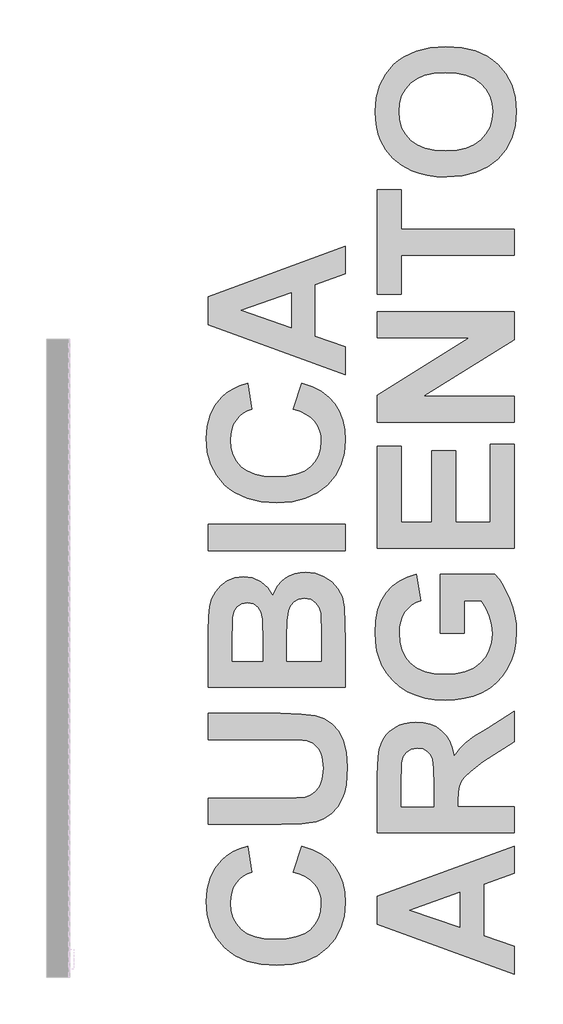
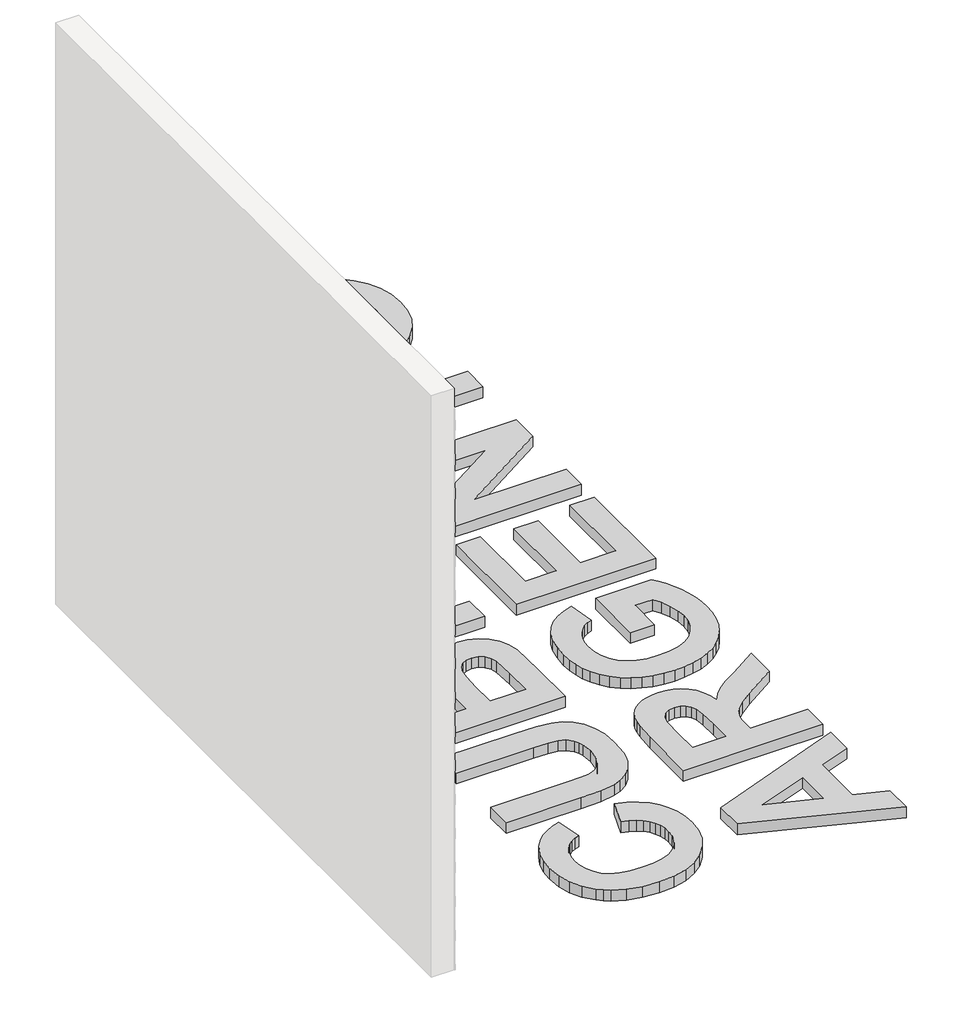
# One storey, part 21 of 121: 93 proxies.
"""IFC4 building model written with IfcOpenShell, lengths in millimetres."""

from ifc_helpers import new_model, si_unit, origin, origin_with_axes, place, context, project, spatial, polyline, outline, extrude, transform, mapped, element, save
from components import generic_models_b2b2c5c1, generic_models_9bf73f6f, generic_models_5d175859, generic_models_95f85f1d, generic_models_336a48c1, generic_models_3c04e8e5, generic_models_61989c10, generic_models_e1ce04d0, generic_models_7dea52c4

model = new_model("IFC4")

# Units and contexts
model_context = context("Model", 3, world=origin())
ifc_project = project(units=[si_unit("LENGTHUNIT", "METRE", prefix="MILLI")], contexts=[model_context])

# Site, building, storey
site = spatial("IfcSite", under=ifc_project)
building = spatial("IfcBuilding", under=site)
storey = spatial("IfcBuildingStorey", under=building, Name="PORTOBELLO - SHOWROOM", Elevation=0.0)

# Proxies
placement = place(None, origin())
generic_models_shape = generic_models_b2b2c5c1(model_context)
element("IfcBuildingElementProxy", 1, Name="PBSHOP - CUBICA ARGENTO 4,8X8,3 : CUBICA ARGENTO - POSIÇÃO 01", ObjectType="PBSHOP - CUBICA ARGENTO 4,8X8,3 : CUBICA ARGENTO - POSIÇÃO 01", at=placement, inside=storey, context=model_context, shape_type="MappedRepresentation", body=[
    mapped(generic_models_shape, transform((150369.5341846, -3950.7919848, 39.4221668), x_axis=(0.0, 1.0, 0.0), y_axis=(0.0, 0.0, 1.0), z_axis=(1.0, 0.0, 0.0))),
])
element("IfcBuildingElementProxy", 2, Name="PBSHOP - CUBICA ARGENTO 4,8X8,3 : CUBICA ARGENTO - POSIÇÃO 01", ObjectType="PBSHOP - CUBICA ARGENTO 4,8X8,3 : CUBICA ARGENTO - POSIÇÃO 01", at=placement, inside=storey, context=model_context, shape_type="MappedRepresentation", body=[
    mapped(generic_models_shape, transform((150369.5341846, -3859.9527156, 39.4221668), x_axis=(0.0, 1.0, 0.0), y_axis=(0.0, 0.0, 1.0), z_axis=(1.0, 0.0, 0.0))),
])
element("IfcBuildingElementProxy", 3, Name="PBSHOP - CUBICA ARGENTO 4,8X8,3 : CUBICA ARGENTO - POSIÇÃO 01", ObjectType="PBSHOP - CUBICA ARGENTO 4,8X8,3 : CUBICA ARGENTO - POSIÇÃO 01", at=placement, inside=storey, context=model_context, shape_type="MappedRepresentation", body=[
    mapped(generic_models_shape, transform((150369.5341846, -3769.1134464, 39.4221668), x_axis=(0.0, 1.0, 0.0), y_axis=(0.0, 0.0, 1.0), z_axis=(1.0, 0.0, 0.0))),
])
element("IfcBuildingElementProxy", 4, Name="PBSHOP - CUBICA ARGENTO 4,8X8,3 : CUBICA ARGENTO - POSIÇÃO 01", ObjectType="PBSHOP - CUBICA ARGENTO 4,8X8,3 : CUBICA ARGENTO - POSIÇÃO 01", at=placement, inside=storey, context=model_context, shape_type="MappedRepresentation", body=[
    mapped(generic_models_shape, transform((150369.5341846, -3678.2741771, 39.4221668), x_axis=(0.0, 1.0, 0.0), y_axis=(0.0, 0.0, 1.0), z_axis=(1.0, 0.0, 0.0))),
])
element("IfcBuildingElementProxy", 5, Name="PBSHOP - CUBICA ARGENTO 4,8X8,3 : CUBICA ARGENTO - POSIÇÃO 01", ObjectType="PBSHOP - CUBICA ARGENTO 4,8X8,3 : CUBICA ARGENTO - POSIÇÃO 01", at=placement, inside=storey, context=model_context, shape_type="MappedRepresentation", body=[
    mapped(generic_models_shape, transform((150369.5341846, -3996.2116195, 118.3568052), x_axis=(0.0, 1.0, 0.0), y_axis=(0.0, 0.0, 1.0), z_axis=(1.0, 0.0, 0.0))),
])
element("IfcBuildingElementProxy", 6, Name="PBSHOP - CUBICA ARGENTO 4,8X8,3 : CUBICA ARGENTO - POSIÇÃO 01", ObjectType="PBSHOP - CUBICA ARGENTO 4,8X8,3 : CUBICA ARGENTO - POSIÇÃO 01", at=placement, inside=storey, context=model_context, shape_type="MappedRepresentation", body=[
    mapped(generic_models_shape, transform((150369.5341846, -3905.3723502, 118.3568052), x_axis=(0.0, 1.0, 0.0), y_axis=(0.0, 0.0, 1.0), z_axis=(1.0, 0.0, 0.0))),
])
element("IfcBuildingElementProxy", 7, Name="PBSHOP - CUBICA ARGENTO 4,8X8,3 : CUBICA ARGENTO - POSIÇÃO 01", ObjectType="PBSHOP - CUBICA ARGENTO 4,8X8,3 : CUBICA ARGENTO - POSIÇÃO 01", at=placement, inside=storey, context=model_context, shape_type="MappedRepresentation", body=[
    mapped(generic_models_shape, transform((150369.5341846, -3814.533081, 118.3568052), x_axis=(0.0, 1.0, 0.0), y_axis=(0.0, 0.0, 1.0), z_axis=(1.0, 0.0, 0.0))),
])
element("IfcBuildingElementProxy", 8, Name="PBSHOP - CUBICA ARGENTO 4,8X8,3 : CUBICA ARGENTO - POSIÇÃO 01", ObjectType="PBSHOP - CUBICA ARGENTO 4,8X8,3 : CUBICA ARGENTO - POSIÇÃO 01", at=placement, inside=storey, context=model_context, shape_type="MappedRepresentation", body=[
    mapped(generic_models_shape, transform((150369.5341846, -3723.6938117, 118.3568052), x_axis=(0.0, 1.0, 0.0), y_axis=(0.0, 0.0, 1.0), z_axis=(1.0, 0.0, 0.0))),
])
element("IfcBuildingElementProxy", 9, Name="PBSHOP - CUBICA ARGENTO 4,8X8,3 : CUBICA ARGENTO - POSIÇÃO 01", ObjectType="PBSHOP - CUBICA ARGENTO 4,8X8,3 : CUBICA ARGENTO - POSIÇÃO 01", at=placement, inside=storey, context=model_context, shape_type="MappedRepresentation", body=[
    mapped(generic_models_shape, transform((150369.5341846, -3632.8545425, 118.3568052), x_axis=(0.0, 1.0, 0.0), y_axis=(0.0, 0.0, 1.0), z_axis=(1.0, 0.0, 0.0))),
])
element("IfcBuildingElementProxy", 10, Name="PBSHOP - CUBICA ARGENTO 4,8X8,3 : CUBICA ARGENTO - POSIÇÃO 01", ObjectType="PBSHOP - CUBICA ARGENTO 4,8X8,3 : CUBICA ARGENTO - POSIÇÃO 01", at=placement, inside=storey, context=model_context, shape_type="MappedRepresentation", body=[
    mapped(generic_models_shape, transform((150369.5341846, -3950.7919848, 197.2914436), x_axis=(0.0, 1.0, 0.0), y_axis=(0.0, 0.0, 1.0), z_axis=(1.0, 0.0, 0.0))),
])
element("IfcBuildingElementProxy", 11, Name="PBSHOP - CUBICA ARGENTO 4,8X8,3 : CUBICA ARGENTO - POSIÇÃO 01", ObjectType="PBSHOP - CUBICA ARGENTO 4,8X8,3 : CUBICA ARGENTO - POSIÇÃO 01", at=placement, inside=storey, context=model_context, shape_type="MappedRepresentation", body=[
    mapped(generic_models_shape, transform((150369.5341846, -3859.9527156, 197.2914436), x_axis=(0.0, 1.0, 0.0), y_axis=(0.0, 0.0, 1.0), z_axis=(1.0, 0.0, 0.0))),
])
element("IfcBuildingElementProxy", 12, Name="PBSHOP - CUBICA ARGENTO 4,8X8,3 : CUBICA ARGENTO - POSIÇÃO 01", ObjectType="PBSHOP - CUBICA ARGENTO 4,8X8,3 : CUBICA ARGENTO - POSIÇÃO 01", at=placement, inside=storey, context=model_context, shape_type="MappedRepresentation", body=[
    mapped(generic_models_shape, transform((150369.5341846, -3769.1134464, 197.2914436), x_axis=(0.0, 1.0, 0.0), y_axis=(0.0, 0.0, 1.0), z_axis=(1.0, 0.0, 0.0))),
])
element("IfcBuildingElementProxy", 13, Name="PBSHOP - CUBICA ARGENTO 4,8X8,3 : CUBICA ARGENTO - POSIÇÃO 01", ObjectType="PBSHOP - CUBICA ARGENTO 4,8X8,3 : CUBICA ARGENTO - POSIÇÃO 01", at=placement, inside=storey, context=model_context, shape_type="MappedRepresentation", body=[
    mapped(generic_models_shape, transform((150369.5341846, -3678.2741771, 197.2914436), x_axis=(0.0, 1.0, 0.0), y_axis=(0.0, 0.0, 1.0), z_axis=(1.0, 0.0, 0.0))),
])
element("IfcBuildingElementProxy", 14, Name="PBSHOP - CUBICA ARGENTO 4,8X8,3 : CUBICA ARGENTO - POSIÇÃO 01", ObjectType="PBSHOP - CUBICA ARGENTO 4,8X8,3 : CUBICA ARGENTO - POSIÇÃO 01", at=placement, inside=storey, context=model_context, shape_type="MappedRepresentation", body=[
    mapped(generic_models_shape, transform((150369.5341846, -3996.2116195, 276.2260819), x_axis=(0.0, 1.0, 0.0), y_axis=(0.0, 0.0, 1.0), z_axis=(1.0, 0.0, 0.0))),
])
element("IfcBuildingElementProxy", 15, Name="PBSHOP - CUBICA ARGENTO 4,8X8,3 : CUBICA ARGENTO - POSIÇÃO 01", ObjectType="PBSHOP - CUBICA ARGENTO 4,8X8,3 : CUBICA ARGENTO - POSIÇÃO 01", at=placement, inside=storey, context=model_context, shape_type="MappedRepresentation", body=[
    mapped(generic_models_shape, transform((150369.5341846, -3905.3723502, 276.2260819), x_axis=(0.0, 1.0, 0.0), y_axis=(0.0, 0.0, 1.0), z_axis=(1.0, 0.0, 0.0))),
])
element("IfcBuildingElementProxy", 16, Name="PBSHOP - CUBICA ARGENTO 4,8X8,3 : CUBICA ARGENTO - POSIÇÃO 01", ObjectType="PBSHOP - CUBICA ARGENTO 4,8X8,3 : CUBICA ARGENTO - POSIÇÃO 01", at=placement, inside=storey, context=model_context, shape_type="MappedRepresentation", body=[
    mapped(generic_models_shape, transform((150369.5341846, -3814.533081, 276.2260819), x_axis=(0.0, 1.0, 0.0), y_axis=(0.0, 0.0, 1.0), z_axis=(1.0, 0.0, 0.0))),
])
element("IfcBuildingElementProxy", 17, Name="PBSHOP - CUBICA ARGENTO 4,8X8,3 : CUBICA ARGENTO - POSIÇÃO 01", ObjectType="PBSHOP - CUBICA ARGENTO 4,8X8,3 : CUBICA ARGENTO - POSIÇÃO 01", at=placement, inside=storey, context=model_context, shape_type="MappedRepresentation", body=[
    mapped(generic_models_shape, transform((150369.5341846, -3723.6938117, 276.2260819), x_axis=(0.0, 1.0, 0.0), y_axis=(0.0, 0.0, 1.0), z_axis=(1.0, 0.0, 0.0))),
])
element("IfcBuildingElementProxy", 18, Name="PBSHOP - CUBICA ARGENTO 4,8X8,3 : CUBICA ARGENTO - POSIÇÃO 01", ObjectType="PBSHOP - CUBICA ARGENTO 4,8X8,3 : CUBICA ARGENTO - POSIÇÃO 01", at=placement, inside=storey, context=model_context, shape_type="MappedRepresentation", body=[
    mapped(generic_models_shape, transform((150369.5341846, -3632.8545425, 276.2260819), x_axis=(0.0, 1.0, 0.0), y_axis=(0.0, 0.0, 1.0), z_axis=(1.0, 0.0, 0.0))),
])
element("IfcBuildingElementProxy", 19, Name="PBSHOP - CUBICA ARGENTO 4,8X8,3 : CUBICA ARGENTO - POSIÇÃO 01", ObjectType="PBSHOP - CUBICA ARGENTO 4,8X8,3 : CUBICA ARGENTO - POSIÇÃO 01", at=placement, inside=storey, context=model_context, shape_type="MappedRepresentation", body=[
    mapped(generic_models_shape, transform((150369.5341846, -3950.7919848, 355.1607203), x_axis=(0.0, 1.0, 0.0), y_axis=(0.0, 0.0, 1.0), z_axis=(1.0, 0.0, 0.0))),
])
element("IfcBuildingElementProxy", 20, Name="PBSHOP - CUBICA ARGENTO 4,8X8,3 : CUBICA ARGENTO - POSIÇÃO 01", ObjectType="PBSHOP - CUBICA ARGENTO 4,8X8,3 : CUBICA ARGENTO - POSIÇÃO 01", at=placement, inside=storey, context=model_context, shape_type="MappedRepresentation", body=[
    mapped(generic_models_shape, transform((150369.5341846, -3859.9527156, 355.1607203), x_axis=(0.0, 1.0, 0.0), y_axis=(0.0, 0.0, 1.0), z_axis=(1.0, 0.0, 0.0))),
])
element("IfcBuildingElementProxy", 21, Name="PBSHOP - CUBICA ARGENTO 4,8X8,3 : CUBICA ARGENTO - POSIÇÃO 01", ObjectType="PBSHOP - CUBICA ARGENTO 4,8X8,3 : CUBICA ARGENTO - POSIÇÃO 01", at=placement, inside=storey, context=model_context, shape_type="MappedRepresentation", body=[
    mapped(generic_models_shape, transform((150369.5341846, -3769.1134464, 355.1607203), x_axis=(0.0, 1.0, 0.0), y_axis=(0.0, 0.0, 1.0), z_axis=(1.0, 0.0, 0.0))),
])
element("IfcBuildingElementProxy", 22, Name="PBSHOP - CUBICA ARGENTO 4,8X8,3 : CUBICA ARGENTO - POSIÇÃO 01", ObjectType="PBSHOP - CUBICA ARGENTO 4,8X8,3 : CUBICA ARGENTO - POSIÇÃO 01", at=placement, inside=storey, context=model_context, shape_type="MappedRepresentation", body=[
    mapped(generic_models_shape, transform((150369.5341846, -3678.2741771, 355.1607203), x_axis=(0.0, 1.0, 0.0), y_axis=(0.0, 0.0, 1.0), z_axis=(1.0, 0.0, 0.0))),
])
element("IfcBuildingElementProxy", 23, Name="PBSHOP - CUBICA ARGENTO 4,8X8,3 : CUBICA ARGENTO - POSIÇÃO 01", ObjectType="PBSHOP - CUBICA ARGENTO 4,8X8,3 : CUBICA ARGENTO - POSIÇÃO 01", at=placement, inside=storey, context=model_context, shape_type="MappedRepresentation", body=[
    mapped(generic_models_shape, transform((150369.5341846, -3996.2116195, 434.0953587), x_axis=(0.0, 1.0, 0.0), y_axis=(0.0, 0.0, 1.0), z_axis=(1.0, 0.0, 0.0))),
])
element("IfcBuildingElementProxy", 24, Name="PBSHOP - CUBICA ARGENTO 4,8X8,3 : CUBICA ARGENTO - POSIÇÃO 01", ObjectType="PBSHOP - CUBICA ARGENTO 4,8X8,3 : CUBICA ARGENTO - POSIÇÃO 01", at=placement, inside=storey, context=model_context, shape_type="MappedRepresentation", body=[
    mapped(generic_models_shape, transform((150369.5341846, -3905.3723502, 434.0953587), x_axis=(0.0, 1.0, 0.0), y_axis=(0.0, 0.0, 1.0), z_axis=(1.0, 0.0, 0.0))),
])
element("IfcBuildingElementProxy", 25, Name="PBSHOP - CUBICA ARGENTO 4,8X8,3 : CUBICA ARGENTO - POSIÇÃO 01", ObjectType="PBSHOP - CUBICA ARGENTO 4,8X8,3 : CUBICA ARGENTO - POSIÇÃO 01", at=placement, inside=storey, context=model_context, shape_type="MappedRepresentation", body=[
    mapped(generic_models_shape, transform((150369.5341846, -3814.533081, 434.0953587), x_axis=(0.0, 1.0, 0.0), y_axis=(0.0, 0.0, 1.0), z_axis=(1.0, 0.0, 0.0))),
])
element("IfcBuildingElementProxy", 26, Name="PBSHOP - CUBICA ARGENTO 4,8X8,3 : CUBICA ARGENTO - POSIÇÃO 01", ObjectType="PBSHOP - CUBICA ARGENTO 4,8X8,3 : CUBICA ARGENTO - POSIÇÃO 01", at=placement, inside=storey, context=model_context, shape_type="MappedRepresentation", body=[
    mapped(generic_models_shape, transform((150369.5341846, -3723.6938117, 434.0953587), x_axis=(0.0, 1.0, 0.0), y_axis=(0.0, 0.0, 1.0), z_axis=(1.0, 0.0, 0.0))),
])
element("IfcBuildingElementProxy", 27, Name="PBSHOP - CUBICA ARGENTO 4,8X8,3 : CUBICA ARGENTO - POSIÇÃO 01", ObjectType="PBSHOP - CUBICA ARGENTO 4,8X8,3 : CUBICA ARGENTO - POSIÇÃO 01", at=placement, inside=storey, context=model_context, shape_type="MappedRepresentation", body=[
    mapped(generic_models_shape, transform((150369.5341846, -3632.8545425, 434.0953587), x_axis=(0.0, 1.0, 0.0), y_axis=(0.0, 0.0, 1.0), z_axis=(1.0, 0.0, 0.0))),
])
element("IfcBuildingElementProxy", 28, Name="PBSHOP - CUBICA ARGENTO 4,8X8,3 : CUBICA ARGENTO - POSIÇÃO 01", ObjectType="PBSHOP - CUBICA ARGENTO 4,8X8,3 : CUBICA ARGENTO - POSIÇÃO 01", at=placement, inside=storey, context=model_context, shape_type="MappedRepresentation", body=[
    mapped(generic_models_shape, transform((150369.5341846, -3950.7919848, 513.0299971), x_axis=(0.0, 1.0, 0.0), y_axis=(0.0, 0.0, 1.0), z_axis=(1.0, 0.0, 0.0))),
])
generic_models_2_shape = generic_models_9bf73f6f(model_context)
element("IfcBuildingElementProxy", 29, Name="PBSHOP - CUBICA ARGENTO 4,8X8,3 : CUBICA ARGENTO - POSIÇÃO 03", ObjectType="PBSHOP - CUBICA ARGENTO 4,8X8,3 : CUBICA ARGENTO - POSIÇÃO 03", at=placement, inside=storey, context=model_context, shape_type="MappedRepresentation", body=[
    mapped(generic_models_2_shape, transform((150369.5341846, -3928.0800084, 78.8482756), x_axis=(0.0, 1.0, 0.0), y_axis=(0.0, 0.0, 1.0), z_axis=(1.0, 0.0, 0.0))),
])
element("IfcBuildingElementProxy", 30, Name="PBSHOP - CUBICA ARGENTO 4,8X8,3 : CUBICA ARGENTO - POSIÇÃO 03", ObjectType="PBSHOP - CUBICA ARGENTO 4,8X8,3 : CUBICA ARGENTO - POSIÇÃO 03", at=placement, inside=storey, context=model_context, shape_type="MappedRepresentation", body=[
    mapped(generic_models_2_shape, transform((150369.5341846, -3837.2407391, 78.8482756), x_axis=(0.0, 1.0, 0.0), y_axis=(0.0, 0.0, 1.0), z_axis=(1.0, 0.0, 0.0))),
])
element("IfcBuildingElementProxy", 31, Name="PBSHOP - CUBICA ARGENTO 4,8X8,3 : CUBICA ARGENTO - POSIÇÃO 03", ObjectType="PBSHOP - CUBICA ARGENTO 4,8X8,3 : CUBICA ARGENTO - POSIÇÃO 03", at=placement, inside=storey, context=model_context, shape_type="MappedRepresentation", body=[
    mapped(generic_models_2_shape, transform((150369.5341846, -3746.4014699, 78.8482756), x_axis=(0.0, 1.0, 0.0), y_axis=(0.0, 0.0, 1.0), z_axis=(1.0, 0.0, 0.0))),
])
element("IfcBuildingElementProxy", 32, Name="PBSHOP - CUBICA ARGENTO 4,8X8,3 : CUBICA ARGENTO - POSIÇÃO 03", ObjectType="PBSHOP - CUBICA ARGENTO 4,8X8,3 : CUBICA ARGENTO - POSIÇÃO 03", at=placement, inside=storey, context=model_context, shape_type="MappedRepresentation", body=[
    mapped(generic_models_2_shape, transform((150369.5341846, -3655.5622006, 78.8482756), x_axis=(0.0, 1.0, 0.0), y_axis=(0.0, 0.0, 1.0), z_axis=(1.0, 0.0, 0.0))),
])
element("IfcBuildingElementProxy", 33, Name="PBSHOP - CUBICA ARGENTO 4,8X8,3 : CUBICA ARGENTO - POSIÇÃO 03", ObjectType="PBSHOP - CUBICA ARGENTO 4,8X8,3 : CUBICA ARGENTO - POSIÇÃO 03", at=placement, inside=storey, context=model_context, shape_type="MappedRepresentation", body=[
    mapped(generic_models_2_shape, transform((150369.5341846, -3973.499643, 157.7829139), x_axis=(0.0, 1.0, 0.0), y_axis=(0.0, 0.0, 1.0), z_axis=(1.0, 0.0, 0.0))),
])
element("IfcBuildingElementProxy", 34, Name="PBSHOP - CUBICA ARGENTO 4,8X8,3 : CUBICA ARGENTO - POSIÇÃO 03", ObjectType="PBSHOP - CUBICA ARGENTO 4,8X8,3 : CUBICA ARGENTO - POSIÇÃO 03", at=placement, inside=storey, context=model_context, shape_type="MappedRepresentation", body=[
    mapped(generic_models_2_shape, transform((150369.5341846, -3882.6603737, 157.7829139), x_axis=(0.0, 1.0, 0.0), y_axis=(0.0, 0.0, 1.0), z_axis=(1.0, 0.0, 0.0))),
])
element("IfcBuildingElementProxy", 35, Name="PBSHOP - CUBICA ARGENTO 4,8X8,3 : CUBICA ARGENTO - POSIÇÃO 03", ObjectType="PBSHOP - CUBICA ARGENTO 4,8X8,3 : CUBICA ARGENTO - POSIÇÃO 03", at=placement, inside=storey, context=model_context, shape_type="MappedRepresentation", body=[
    mapped(generic_models_2_shape, transform((150369.5341846, -3791.8211045, 157.7829139), x_axis=(0.0, 1.0, 0.0), y_axis=(0.0, 0.0, 1.0), z_axis=(1.0, 0.0, 0.0))),
])
element("IfcBuildingElementProxy", 36, Name="PBSHOP - CUBICA ARGENTO 4,8X8,3 : CUBICA ARGENTO - POSIÇÃO 03", ObjectType="PBSHOP - CUBICA ARGENTO 4,8X8,3 : CUBICA ARGENTO - POSIÇÃO 03", at=placement, inside=storey, context=model_context, shape_type="MappedRepresentation", body=[
    mapped(generic_models_2_shape, transform((150369.5341846, -3700.9818353, 157.7829139), x_axis=(0.0, 1.0, 0.0), y_axis=(0.0, 0.0, 1.0), z_axis=(1.0, 0.0, 0.0))),
])
element("IfcBuildingElementProxy", 37, Name="PBSHOP - CUBICA ARGENTO 4,8X8,3 : CUBICA ARGENTO - POSIÇÃO 03", ObjectType="PBSHOP - CUBICA ARGENTO 4,8X8,3 : CUBICA ARGENTO - POSIÇÃO 03", at=placement, inside=storey, context=model_context, shape_type="MappedRepresentation", body=[
    mapped(generic_models_2_shape, transform((150369.5341846, -3928.0800084, 236.7175523), x_axis=(0.0, 1.0, 0.0), y_axis=(0.0, 0.0, 1.0), z_axis=(1.0, 0.0, 0.0))),
])
element("IfcBuildingElementProxy", 38, Name="PBSHOP - CUBICA ARGENTO 4,8X8,3 : CUBICA ARGENTO - POSIÇÃO 03", ObjectType="PBSHOP - CUBICA ARGENTO 4,8X8,3 : CUBICA ARGENTO - POSIÇÃO 03", at=placement, inside=storey, context=model_context, shape_type="MappedRepresentation", body=[
    mapped(generic_models_2_shape, transform((150369.5341846, -3837.2407391, 236.7175523), x_axis=(0.0, 1.0, 0.0), y_axis=(0.0, 0.0, 1.0), z_axis=(1.0, 0.0, 0.0))),
])
element("IfcBuildingElementProxy", 39, Name="PBSHOP - CUBICA ARGENTO 4,8X8,3 : CUBICA ARGENTO - POSIÇÃO 03", ObjectType="PBSHOP - CUBICA ARGENTO 4,8X8,3 : CUBICA ARGENTO - POSIÇÃO 03", at=placement, inside=storey, context=model_context, shape_type="MappedRepresentation", body=[
    mapped(generic_models_2_shape, transform((150369.5341846, -3746.4014699, 236.7175523), x_axis=(0.0, 1.0, 0.0), y_axis=(0.0, 0.0, 1.0), z_axis=(1.0, 0.0, 0.0))),
])
element("IfcBuildingElementProxy", 40, Name="PBSHOP - CUBICA ARGENTO 4,8X8,3 : CUBICA ARGENTO - POSIÇÃO 03", ObjectType="PBSHOP - CUBICA ARGENTO 4,8X8,3 : CUBICA ARGENTO - POSIÇÃO 03", at=placement, inside=storey, context=model_context, shape_type="MappedRepresentation", body=[
    mapped(generic_models_2_shape, transform((150369.5341846, -3655.5622006, 236.7175523), x_axis=(0.0, 1.0, 0.0), y_axis=(0.0, 0.0, 1.0), z_axis=(1.0, 0.0, 0.0))),
])
element("IfcBuildingElementProxy", 41, Name="PBSHOP - CUBICA ARGENTO 4,8X8,3 : CUBICA ARGENTO - POSIÇÃO 03", ObjectType="PBSHOP - CUBICA ARGENTO 4,8X8,3 : CUBICA ARGENTO - POSIÇÃO 03", at=placement, inside=storey, context=model_context, shape_type="MappedRepresentation", body=[
    mapped(generic_models_2_shape, transform((150369.5341846, -3973.499643, 315.6521907), x_axis=(0.0, 1.0, 0.0), y_axis=(0.0, 0.0, 1.0), z_axis=(1.0, 0.0, 0.0))),
])
element("IfcBuildingElementProxy", 42, Name="PBSHOP - CUBICA ARGENTO 4,8X8,3 : CUBICA ARGENTO - POSIÇÃO 03", ObjectType="PBSHOP - CUBICA ARGENTO 4,8X8,3 : CUBICA ARGENTO - POSIÇÃO 03", at=placement, inside=storey, context=model_context, shape_type="MappedRepresentation", body=[
    mapped(generic_models_2_shape, transform((150369.5341846, -3882.6603737, 315.6521907), x_axis=(0.0, 1.0, 0.0), y_axis=(0.0, 0.0, 1.0), z_axis=(1.0, 0.0, 0.0))),
])
element("IfcBuildingElementProxy", 43, Name="PBSHOP - CUBICA ARGENTO 4,8X8,3 : CUBICA ARGENTO - POSIÇÃO 03", ObjectType="PBSHOP - CUBICA ARGENTO 4,8X8,3 : CUBICA ARGENTO - POSIÇÃO 03", at=placement, inside=storey, context=model_context, shape_type="MappedRepresentation", body=[
    mapped(generic_models_2_shape, transform((150369.5341846, -3791.8211045, 315.6521907), x_axis=(0.0, 1.0, 0.0), y_axis=(0.0, 0.0, 1.0), z_axis=(1.0, 0.0, 0.0))),
])
element("IfcBuildingElementProxy", 44, Name="PBSHOP - CUBICA ARGENTO 4,8X8,3 : CUBICA ARGENTO - POSIÇÃO 03", ObjectType="PBSHOP - CUBICA ARGENTO 4,8X8,3 : CUBICA ARGENTO - POSIÇÃO 03", at=placement, inside=storey, context=model_context, shape_type="MappedRepresentation", body=[
    mapped(generic_models_2_shape, transform((150369.5341846, -3700.9818353, 315.6521907), x_axis=(0.0, 1.0, 0.0), y_axis=(0.0, 0.0, 1.0), z_axis=(1.0, 0.0, 0.0))),
])
element("IfcBuildingElementProxy", 45, Name="PBSHOP - CUBICA ARGENTO 4,8X8,3 : CUBICA ARGENTO - POSIÇÃO 03", ObjectType="PBSHOP - CUBICA ARGENTO 4,8X8,3 : CUBICA ARGENTO - POSIÇÃO 03", at=placement, inside=storey, context=model_context, shape_type="MappedRepresentation", body=[
    mapped(generic_models_2_shape, transform((150369.5341846, -3928.0800084, 394.5868291), x_axis=(0.0, 1.0, 0.0), y_axis=(0.0, 0.0, 1.0), z_axis=(1.0, 0.0, 0.0))),
])
element("IfcBuildingElementProxy", 46, Name="PBSHOP - CUBICA ARGENTO 4,8X8,3 : CUBICA ARGENTO - POSIÇÃO 03", ObjectType="PBSHOP - CUBICA ARGENTO 4,8X8,3 : CUBICA ARGENTO - POSIÇÃO 03", at=placement, inside=storey, context=model_context, shape_type="MappedRepresentation", body=[
    mapped(generic_models_2_shape, transform((150369.5341846, -3837.2407391, 394.5868291), x_axis=(0.0, 1.0, 0.0), y_axis=(0.0, 0.0, 1.0), z_axis=(1.0, 0.0, 0.0))),
])
element("IfcBuildingElementProxy", 47, Name="PBSHOP - CUBICA ARGENTO 4,8X8,3 : CUBICA ARGENTO - POSIÇÃO 03", ObjectType="PBSHOP - CUBICA ARGENTO 4,8X8,3 : CUBICA ARGENTO - POSIÇÃO 03", at=placement, inside=storey, context=model_context, shape_type="MappedRepresentation", body=[
    mapped(generic_models_2_shape, transform((150369.5341846, -3746.4014699, 394.5868291), x_axis=(0.0, 1.0, 0.0), y_axis=(0.0, 0.0, 1.0), z_axis=(1.0, 0.0, 0.0))),
])
element("IfcBuildingElementProxy", 48, Name="PBSHOP - CUBICA ARGENTO 4,8X8,3 : CUBICA ARGENTO - POSIÇÃO 03", ObjectType="PBSHOP - CUBICA ARGENTO 4,8X8,3 : CUBICA ARGENTO - POSIÇÃO 03", at=placement, inside=storey, context=model_context, shape_type="MappedRepresentation", body=[
    mapped(generic_models_2_shape, transform((150369.5341846, -3655.5622006, 394.5868291), x_axis=(0.0, 1.0, 0.0), y_axis=(0.0, 0.0, 1.0), z_axis=(1.0, 0.0, 0.0))),
])
generic_models_3_shape = generic_models_5d175859(model_context)
element("IfcBuildingElementProxy", 49, Name="PBSHOP - CUBICA ARGENTO 4,8X8,3 : CUBICA ARGENTO - POSIÇÃO 01", ObjectType="PBSHOP - CUBICA ARGENTO 4,8X8,3 : CUBICA ARGENTO - POSIÇÃO 01", at=placement, inside=storey, context=model_context, shape_type="MappedRepresentation", body=[
    mapped(generic_models_3_shape, transform((150369.5341846, -3996.2073011, 39.4221668), x_axis=(0.0, -1.0, 0.0), y_axis=(0.0, 0.0, -1.0), z_axis=(1.0, 0.0, 0.0))),
])
element("IfcBuildingElementProxy", 50, Name="PBSHOP - CUBICA ARGENTO 4,8X8,3 : CUBICA ARGENTO - POSIÇÃO 01", ObjectType="PBSHOP - CUBICA ARGENTO 4,8X8,3 : CUBICA ARGENTO - POSIÇÃO 01", at=placement, inside=storey, context=model_context, shape_type="MappedRepresentation", body=[
    mapped(generic_models_3_shape, transform((150369.5341846, -3905.3680319, 39.4221668), x_axis=(0.0, -1.0, 0.0), y_axis=(0.0, 0.0, -1.0), z_axis=(1.0, 0.0, 0.0))),
])
element("IfcBuildingElementProxy", 51, Name="PBSHOP - CUBICA ARGENTO 4,8X8,3 : CUBICA ARGENTO - POSIÇÃO 01", ObjectType="PBSHOP - CUBICA ARGENTO 4,8X8,3 : CUBICA ARGENTO - POSIÇÃO 01", at=placement, inside=storey, context=model_context, shape_type="MappedRepresentation", body=[
    mapped(generic_models_3_shape, transform((150369.5341846, -3814.5287626, 39.4221668), x_axis=(0.0, -1.0, 0.0), y_axis=(0.0, 0.0, -1.0), z_axis=(1.0, 0.0, 0.0))),
])
element("IfcBuildingElementProxy", 52, Name="PBSHOP - CUBICA ARGENTO 4,8X8,3 : CUBICA ARGENTO - POSIÇÃO 01", ObjectType="PBSHOP - CUBICA ARGENTO 4,8X8,3 : CUBICA ARGENTO - POSIÇÃO 01", at=placement, inside=storey, context=model_context, shape_type="MappedRepresentation", body=[
    mapped(generic_models_3_shape, transform((150369.5341846, -3723.6894934, 39.4221668), x_axis=(0.0, -1.0, 0.0), y_axis=(0.0, 0.0, -1.0), z_axis=(1.0, 0.0, 0.0))),
])
element("IfcBuildingElementProxy", 53, Name="PBSHOP - CUBICA ARGENTO 4,8X8,3 : CUBICA ARGENTO - POSIÇÃO 01", ObjectType="PBSHOP - CUBICA ARGENTO 4,8X8,3 : CUBICA ARGENTO - POSIÇÃO 01", at=placement, inside=storey, context=model_context, shape_type="MappedRepresentation", body=[
    mapped(generic_models_3_shape, transform((150369.5341846, -3632.8502242, 39.4221668), x_axis=(0.0, -1.0, 0.0), y_axis=(0.0, 0.0, -1.0), z_axis=(1.0, 0.0, 0.0))),
])
element("IfcBuildingElementProxy", 54, Name="PBSHOP - CUBICA ARGENTO 4,8X8,3 : CUBICA ARGENTO - POSIÇÃO 01", ObjectType="PBSHOP - CUBICA ARGENTO 4,8X8,3 : CUBICA ARGENTO - POSIÇÃO 01", at=placement, inside=storey, context=model_context, shape_type="MappedRepresentation", body=[
    mapped(generic_models_3_shape, transform((150369.5341846, -3950.7876665, 118.3568052), x_axis=(0.0, -1.0, 0.0), y_axis=(0.0, 0.0, -1.0), z_axis=(1.0, 0.0, 0.0))),
])
element("IfcBuildingElementProxy", 55, Name="PBSHOP - CUBICA ARGENTO 4,8X8,3 : CUBICA ARGENTO - POSIÇÃO 01", ObjectType="PBSHOP - CUBICA ARGENTO 4,8X8,3 : CUBICA ARGENTO - POSIÇÃO 01", at=placement, inside=storey, context=model_context, shape_type="MappedRepresentation", body=[
    mapped(generic_models_3_shape, transform((150369.5341846, -3859.9483973, 118.3568052), x_axis=(0.0, -1.0, 0.0), y_axis=(0.0, 0.0, -1.0), z_axis=(1.0, 0.0, 0.0))),
])
element("IfcBuildingElementProxy", 56, Name="PBSHOP - CUBICA ARGENTO 4,8X8,3 : CUBICA ARGENTO - POSIÇÃO 01", ObjectType="PBSHOP - CUBICA ARGENTO 4,8X8,3 : CUBICA ARGENTO - POSIÇÃO 01", at=placement, inside=storey, context=model_context, shape_type="MappedRepresentation", body=[
    mapped(generic_models_3_shape, transform((150369.5341846, -3769.109128, 118.3568052), x_axis=(0.0, -1.0, 0.0), y_axis=(0.0, 0.0, -1.0), z_axis=(1.0, 0.0, 0.0))),
])
element("IfcBuildingElementProxy", 57, Name="PBSHOP - CUBICA ARGENTO 4,8X8,3 : CUBICA ARGENTO - POSIÇÃO 01", ObjectType="PBSHOP - CUBICA ARGENTO 4,8X8,3 : CUBICA ARGENTO - POSIÇÃO 01", at=placement, inside=storey, context=model_context, shape_type="MappedRepresentation", body=[
    mapped(generic_models_3_shape, transform((150369.5341846, -3678.2698588, 118.3568052), x_axis=(0.0, -1.0, 0.0), y_axis=(0.0, 0.0, -1.0), z_axis=(1.0, 0.0, 0.0))),
])
element("IfcBuildingElementProxy", 58, Name="PBSHOP - CUBICA ARGENTO 4,8X8,3 : CUBICA ARGENTO - POSIÇÃO 01", ObjectType="PBSHOP - CUBICA ARGENTO 4,8X8,3 : CUBICA ARGENTO - POSIÇÃO 01", at=placement, inside=storey, context=model_context, shape_type="MappedRepresentation", body=[
    mapped(generic_models_3_shape, transform((150369.5341846, -3996.2073011, 197.2914436), x_axis=(0.0, -1.0, 0.0), y_axis=(0.0, 0.0, -1.0), z_axis=(1.0, 0.0, 0.0))),
])
element("IfcBuildingElementProxy", 59, Name="PBSHOP - CUBICA ARGENTO 4,8X8,3 : CUBICA ARGENTO - POSIÇÃO 01", ObjectType="PBSHOP - CUBICA ARGENTO 4,8X8,3 : CUBICA ARGENTO - POSIÇÃO 01", at=placement, inside=storey, context=model_context, shape_type="MappedRepresentation", body=[
    mapped(generic_models_3_shape, transform((150369.5341846, -3905.3680319, 197.2914436), x_axis=(0.0, -1.0, 0.0), y_axis=(0.0, 0.0, -1.0), z_axis=(1.0, 0.0, 0.0))),
])
element("IfcBuildingElementProxy", 60, Name="PBSHOP - CUBICA ARGENTO 4,8X8,3 : CUBICA ARGENTO - POSIÇÃO 01", ObjectType="PBSHOP - CUBICA ARGENTO 4,8X8,3 : CUBICA ARGENTO - POSIÇÃO 01", at=placement, inside=storey, context=model_context, shape_type="MappedRepresentation", body=[
    mapped(generic_models_3_shape, transform((150369.5341846, -3814.5287626, 197.2914436), x_axis=(0.0, -1.0, 0.0), y_axis=(0.0, 0.0, -1.0), z_axis=(1.0, 0.0, 0.0))),
])
element("IfcBuildingElementProxy", 61, Name="PBSHOP - CUBICA ARGENTO 4,8X8,3 : CUBICA ARGENTO - POSIÇÃO 01", ObjectType="PBSHOP - CUBICA ARGENTO 4,8X8,3 : CUBICA ARGENTO - POSIÇÃO 01", at=placement, inside=storey, context=model_context, shape_type="MappedRepresentation", body=[
    mapped(generic_models_3_shape, transform((150369.5341846, -3723.6894934, 197.2914436), x_axis=(0.0, -1.0, 0.0), y_axis=(0.0, 0.0, -1.0), z_axis=(1.0, 0.0, 0.0))),
])
element("IfcBuildingElementProxy", 62, Name="PBSHOP - CUBICA ARGENTO 4,8X8,3 : CUBICA ARGENTO - POSIÇÃO 01", ObjectType="PBSHOP - CUBICA ARGENTO 4,8X8,3 : CUBICA ARGENTO - POSIÇÃO 01", at=placement, inside=storey, context=model_context, shape_type="MappedRepresentation", body=[
    mapped(generic_models_3_shape, transform((150369.5341846, -3632.8502242, 197.2914436), x_axis=(0.0, -1.0, 0.0), y_axis=(0.0, 0.0, -1.0), z_axis=(1.0, 0.0, 0.0))),
])
element("IfcBuildingElementProxy", 63, Name="PBSHOP - CUBICA ARGENTO 4,8X8,3 : CUBICA ARGENTO - POSIÇÃO 01", ObjectType="PBSHOP - CUBICA ARGENTO 4,8X8,3 : CUBICA ARGENTO - POSIÇÃO 01", at=placement, inside=storey, context=model_context, shape_type="MappedRepresentation", body=[
    mapped(generic_models_3_shape, transform((150369.5341846, -3950.7876665, 276.2260819), x_axis=(0.0, -1.0, 0.0), y_axis=(0.0, 0.0, -1.0), z_axis=(1.0, 0.0, 0.0))),
])
element("IfcBuildingElementProxy", 64, Name="PBSHOP - CUBICA ARGENTO 4,8X8,3 : CUBICA ARGENTO - POSIÇÃO 01", ObjectType="PBSHOP - CUBICA ARGENTO 4,8X8,3 : CUBICA ARGENTO - POSIÇÃO 01", at=placement, inside=storey, context=model_context, shape_type="MappedRepresentation", body=[
    mapped(generic_models_3_shape, transform((150369.5341846, -3859.9483973, 276.2260819), x_axis=(0.0, -1.0, 0.0), y_axis=(0.0, 0.0, -1.0), z_axis=(1.0, 0.0, 0.0))),
])
element("IfcBuildingElementProxy", 65, Name="PBSHOP - CUBICA ARGENTO 4,8X8,3 : CUBICA ARGENTO - POSIÇÃO 01", ObjectType="PBSHOP - CUBICA ARGENTO 4,8X8,3 : CUBICA ARGENTO - POSIÇÃO 01", at=placement, inside=storey, context=model_context, shape_type="MappedRepresentation", body=[
    mapped(generic_models_3_shape, transform((150369.5341846, -3769.109128, 276.2260819), x_axis=(0.0, -1.0, 0.0), y_axis=(0.0, 0.0, -1.0), z_axis=(1.0, 0.0, 0.0))),
])
element("IfcBuildingElementProxy", 66, Name="PBSHOP - CUBICA ARGENTO 4,8X8,3 : CUBICA ARGENTO - POSIÇÃO 01", ObjectType="PBSHOP - CUBICA ARGENTO 4,8X8,3 : CUBICA ARGENTO - POSIÇÃO 01", at=placement, inside=storey, context=model_context, shape_type="MappedRepresentation", body=[
    mapped(generic_models_3_shape, transform((150369.5341846, -3678.2698588, 276.2260819), x_axis=(0.0, -1.0, 0.0), y_axis=(0.0, 0.0, -1.0), z_axis=(1.0, 0.0, 0.0))),
])
element("IfcBuildingElementProxy", 67, Name="PBSHOP - CUBICA ARGENTO 4,8X8,3 : CUBICA ARGENTO - POSIÇÃO 01", ObjectType="PBSHOP - CUBICA ARGENTO 4,8X8,3 : CUBICA ARGENTO - POSIÇÃO 01", at=placement, inside=storey, context=model_context, shape_type="MappedRepresentation", body=[
    mapped(generic_models_3_shape, transform((150369.5341846, -3996.2073011, 355.1607203), x_axis=(0.0, -1.0, 0.0), y_axis=(0.0, 0.0, -1.0), z_axis=(1.0, 0.0, 0.0))),
])
element("IfcBuildingElementProxy", 68, Name="PBSHOP - CUBICA ARGENTO 4,8X8,3 : CUBICA ARGENTO - POSIÇÃO 01", ObjectType="PBSHOP - CUBICA ARGENTO 4,8X8,3 : CUBICA ARGENTO - POSIÇÃO 01", at=placement, inside=storey, context=model_context, shape_type="MappedRepresentation", body=[
    mapped(generic_models_3_shape, transform((150369.5341846, -3905.3680319, 355.1607203), x_axis=(0.0, -1.0, 0.0), y_axis=(0.0, 0.0, -1.0), z_axis=(1.0, 0.0, 0.0))),
])
element("IfcBuildingElementProxy", 69, Name="PBSHOP - CUBICA ARGENTO 4,8X8,3 : CUBICA ARGENTO - POSIÇÃO 01", ObjectType="PBSHOP - CUBICA ARGENTO 4,8X8,3 : CUBICA ARGENTO - POSIÇÃO 01", at=placement, inside=storey, context=model_context, shape_type="MappedRepresentation", body=[
    mapped(generic_models_3_shape, transform((150369.5341846, -3814.5287626, 355.1607203), x_axis=(0.0, -1.0, 0.0), y_axis=(0.0, 0.0, -1.0), z_axis=(1.0, 0.0, 0.0))),
])
element("IfcBuildingElementProxy", 70, Name="PBSHOP - CUBICA ARGENTO 4,8X8,3 : CUBICA ARGENTO - POSIÇÃO 01", ObjectType="PBSHOP - CUBICA ARGENTO 4,8X8,3 : CUBICA ARGENTO - POSIÇÃO 01", at=placement, inside=storey, context=model_context, shape_type="MappedRepresentation", body=[
    mapped(generic_models_3_shape, transform((150369.5341846, -3723.6894934, 355.1607203), x_axis=(0.0, -1.0, 0.0), y_axis=(0.0, 0.0, -1.0), z_axis=(1.0, 0.0, 0.0))),
])
element("IfcBuildingElementProxy", 71, Name="PBSHOP - CUBICA ARGENTO 4,8X8,3 : CUBICA ARGENTO - POSIÇÃO 01", ObjectType="PBSHOP - CUBICA ARGENTO 4,8X8,3 : CUBICA ARGENTO - POSIÇÃO 01", at=placement, inside=storey, context=model_context, shape_type="MappedRepresentation", body=[
    mapped(generic_models_3_shape, transform((150369.5341846, -3632.8502242, 355.1607203), x_axis=(0.0, -1.0, 0.0), y_axis=(0.0, 0.0, -1.0), z_axis=(1.0, 0.0, 0.0))),
])
element("IfcBuildingElementProxy", 72, Name="PBSHOP - CUBICA ARGENTO 4,8X8,3 : CUBICA ARGENTO - POSIÇÃO 01", ObjectType="PBSHOP - CUBICA ARGENTO 4,8X8,3 : CUBICA ARGENTO - POSIÇÃO 01", at=placement, inside=storey, context=model_context, shape_type="MappedRepresentation", body=[
    mapped(generic_models_3_shape, transform((150369.5341846, -3950.7876665, 434.0953587), x_axis=(0.0, -1.0, 0.0), y_axis=(0.0, 0.0, -1.0), z_axis=(1.0, 0.0, 0.0))),
])
element("IfcBuildingElementProxy", 73, Name="PBSHOP - CUBICA ARGENTO 4,8X8,3 : CUBICA ARGENTO - POSIÇÃO 01", ObjectType="PBSHOP - CUBICA ARGENTO 4,8X8,3 : CUBICA ARGENTO - POSIÇÃO 01", at=placement, inside=storey, context=model_context, shape_type="MappedRepresentation", body=[
    mapped(generic_models_3_shape, transform((150369.5341846, -3859.9483973, 434.0953587), x_axis=(0.0, -1.0, 0.0), y_axis=(0.0, 0.0, -1.0), z_axis=(1.0, 0.0, 0.0))),
])
element("IfcBuildingElementProxy", 74, Name="PBSHOP - CUBICA ARGENTO 4,8X8,3 : CUBICA ARGENTO - POSIÇÃO 01", ObjectType="PBSHOP - CUBICA ARGENTO 4,8X8,3 : CUBICA ARGENTO - POSIÇÃO 01", at=placement, inside=storey, context=model_context, shape_type="MappedRepresentation", body=[
    mapped(generic_models_3_shape, transform((150369.5341846, -3769.109128, 434.0953587), x_axis=(0.0, -1.0, 0.0), y_axis=(0.0, 0.0, -1.0), z_axis=(1.0, 0.0, 0.0))),
])
element("IfcBuildingElementProxy", 75, Name="PBSHOP - CUBICA ARGENTO 4,8X8,3 : CUBICA ARGENTO - POSIÇÃO 01", ObjectType="PBSHOP - CUBICA ARGENTO 4,8X8,3 : CUBICA ARGENTO - POSIÇÃO 01", at=placement, inside=storey, context=model_context, shape_type="MappedRepresentation", body=[
    mapped(generic_models_3_shape, transform((150369.5341846, -3678.2698588, 434.0953587), x_axis=(0.0, -1.0, 0.0), y_axis=(0.0, 0.0, -1.0), z_axis=(1.0, 0.0, 0.0))),
])
element("IfcBuildingElementProxy", 76, Name="PBSHOP - CUBICA ARGENTO 4,8X8,3 : CUBICA ARGENTO - POSIÇÃO 01", ObjectType="PBSHOP - CUBICA ARGENTO 4,8X8,3 : CUBICA ARGENTO - POSIÇÃO 01", at=placement, inside=storey, context=model_context, shape_type="MappedRepresentation", body=[
    mapped(generic_models_3_shape, transform((150369.5341846, -3996.2073011, 513.0299971), x_axis=(0.0, -1.0, 0.0), y_axis=(0.0, 0.0, -1.0), z_axis=(1.0, 0.0, 0.0))),
])
generic_models_4_shape = generic_models_95f85f1d(model_context)
element("IfcBuildingElementProxy", 77, Name="PBSHOP - CUBICA ARGENTO 4,8X8,3 : CUBICA ARGENTO - POSIÇÃO 03", ObjectType="PBSHOP - CUBICA ARGENTO 4,8X8,3 : CUBICA ARGENTO - POSIÇÃO 03", at=placement, inside=storey, context=model_context, shape_type="MappedRepresentation", body=[
    mapped(generic_models_4_shape, transform((150369.5341846, -3973.499643, -0.0863628), x_axis=(0.0, 1.0, 0.0), y_axis=(0.0, 0.0, 1.0), z_axis=(1.0, 0.0, 0.0))),
])
element("IfcBuildingElementProxy", 78, Name="PBSHOP - CUBICA ARGENTO 4,8X8,3 : CUBICA ARGENTO - POSIÇÃO 03", ObjectType="PBSHOP - CUBICA ARGENTO 4,8X8,3 : CUBICA ARGENTO - POSIÇÃO 03", at=placement, inside=storey, context=model_context, shape_type="MappedRepresentation", body=[
    mapped(generic_models_4_shape, transform((150369.5341846, -3882.6603737, -0.0863628), x_axis=(0.0, 1.0, 0.0), y_axis=(0.0, 0.0, 1.0), z_axis=(1.0, 0.0, 0.0))),
])
element("IfcBuildingElementProxy", 79, Name="PBSHOP - CUBICA ARGENTO 4,8X8,3 : CUBICA ARGENTO - POSIÇÃO 03", ObjectType="PBSHOP - CUBICA ARGENTO 4,8X8,3 : CUBICA ARGENTO - POSIÇÃO 03", at=placement, inside=storey, context=model_context, shape_type="MappedRepresentation", body=[
    mapped(generic_models_4_shape, transform((150369.5341846, -3791.8211045, -0.0863628), x_axis=(0.0, 1.0, 0.0), y_axis=(0.0, 0.0, 1.0), z_axis=(1.0, 0.0, 0.0))),
])
element("IfcBuildingElementProxy", 80, Name="PBSHOP - CUBICA ARGENTO 4,8X8,3 : CUBICA ARGENTO - POSIÇÃO 03", ObjectType="PBSHOP - CUBICA ARGENTO 4,8X8,3 : CUBICA ARGENTO - POSIÇÃO 03", at=placement, inside=storey, context=model_context, shape_type="MappedRepresentation", body=[
    mapped(generic_models_4_shape, transform((150369.5341846, -3700.9818353, -0.0863628), x_axis=(0.0, 1.0, 0.0), y_axis=(0.0, 0.0, 1.0), z_axis=(1.0, 0.0, 0.0))),
])
generic_models_5_shape = generic_models_336a48c1(model_context)
element("IfcBuildingElementProxy", 81, Name="PBSHOP - CUBICA ARGENTO 4,8X8,3 : CUBICA ARGENTO - POSIÇÃO 03", ObjectType="PBSHOP - CUBICA ARGENTO 4,8X8,3 : CUBICA ARGENTO - POSIÇÃO 03", at=placement, inside=storey, context=model_context, shape_type="MappedRepresentation", body=[
    mapped(generic_models_5_shape, transform((150369.5341846, -3564.7229314, 78.8482756), x_axis=(0.0, 1.0, 0.0), y_axis=(0.0, 0.0, 1.0), z_axis=(1.0, 0.0, 0.0))),
])
element("IfcBuildingElementProxy", 82, Name="PBSHOP - CUBICA ARGENTO 4,8X8,3 : CUBICA ARGENTO - POSIÇÃO 03", ObjectType="PBSHOP - CUBICA ARGENTO 4,8X8,3 : CUBICA ARGENTO - POSIÇÃO 03", at=placement, inside=storey, context=model_context, shape_type="MappedRepresentation", body=[
    mapped(generic_models_5_shape, transform((150369.5341846, -3564.7229314, 236.7175523), x_axis=(0.0, 1.0, 0.0), y_axis=(0.0, 0.0, 1.0), z_axis=(1.0, 0.0, 0.0))),
])
element("IfcBuildingElementProxy", 83, Name="PBSHOP - CUBICA ARGENTO 4,8X8,3 : CUBICA ARGENTO - POSIÇÃO 03", ObjectType="PBSHOP - CUBICA ARGENTO 4,8X8,3 : CUBICA ARGENTO - POSIÇÃO 03", at=placement, inside=storey, context=model_context, shape_type="MappedRepresentation", body=[
    mapped(generic_models_5_shape, transform((150369.5341846, -3564.7229314, 394.5868291), x_axis=(0.0, 1.0, 0.0), y_axis=(0.0, 0.0, 1.0), z_axis=(1.0, 0.0, 0.0))),
])
generic_models_6_shape = generic_models_3c04e8e5(model_context)
element("IfcBuildingElementProxy", 84, Name="PBSHOP - CUBICA ARGENTO 4,8X8,3 : CUBICA ARGENTO - POSIÇÃO 01", ObjectType="PBSHOP - CUBICA ARGENTO 4,8X8,3 : CUBICA ARGENTO - POSIÇÃO 01", at=placement, inside=storey, context=model_context, shape_type="MappedRepresentation", body=[
    mapped(generic_models_6_shape, transform((150369.5341846, -3587.4349079, 39.4221668), x_axis=(0.0, 1.0, 0.0), y_axis=(0.0, 0.0, 1.0), z_axis=(1.0, 0.0, 0.0))),
])
element("IfcBuildingElementProxy", 85, Name="PBSHOP - CUBICA ARGENTO 4,8X8,3 : CUBICA ARGENTO - POSIÇÃO 01", ObjectType="PBSHOP - CUBICA ARGENTO 4,8X8,3 : CUBICA ARGENTO - POSIÇÃO 01", at=placement, inside=storey, context=model_context, shape_type="MappedRepresentation", body=[
    mapped(generic_models_6_shape, transform((150369.5341846, -3587.4349079, 197.2914436), x_axis=(0.0, 1.0, 0.0), y_axis=(0.0, 0.0, 1.0), z_axis=(1.0, 0.0, 0.0))),
])
element("IfcBuildingElementProxy", 86, Name="PBSHOP - CUBICA ARGENTO 4,8X8,3 : CUBICA ARGENTO - POSIÇÃO 01", ObjectType="PBSHOP - CUBICA ARGENTO 4,8X8,3 : CUBICA ARGENTO - POSIÇÃO 01", at=placement, inside=storey, context=model_context, shape_type="MappedRepresentation", body=[
    mapped(generic_models_6_shape, transform((150369.5341846, -3587.4349079, 355.1607203), x_axis=(0.0, 1.0, 0.0), y_axis=(0.0, 0.0, 1.0), z_axis=(1.0, 0.0, 0.0))),
])
generic_models_7_shape = generic_models_61989c10(model_context)
element("IfcBuildingElementProxy", 87, Name="PBSHOP - CUBICA ARGENTO 4,8X8,3 : CUBICA ARGENTO - POSIÇÃO 01", ObjectType="PBSHOP - CUBICA ARGENTO 4,8X8,3 : CUBICA ARGENTO - POSIÇÃO 01", at=placement, inside=storey, context=model_context, shape_type="MappedRepresentation", body=[
    mapped(generic_models_7_shape, transform((150369.5341846, -3587.4305895, 118.3568052), x_axis=(0.0, -1.0, 0.0), y_axis=(0.0, 0.0, -1.0), z_axis=(1.0, 0.0, 0.0))),
])
element("IfcBuildingElementProxy", 88, Name="PBSHOP - CUBICA ARGENTO 4,8X8,3 : CUBICA ARGENTO - POSIÇÃO 01", ObjectType="PBSHOP - CUBICA ARGENTO 4,8X8,3 : CUBICA ARGENTO - POSIÇÃO 01", at=placement, inside=storey, context=model_context, shape_type="MappedRepresentation", body=[
    mapped(generic_models_7_shape, transform((150369.5341846, -3587.4305895, 276.2260819), x_axis=(0.0, -1.0, 0.0), y_axis=(0.0, 0.0, -1.0), z_axis=(1.0, 0.0, 0.0))),
])
element("IfcBuildingElementProxy", 89, Name="PBSHOP - CUBICA ARGENTO 4,8X8,3 : CUBICA ARGENTO - POSIÇÃO 01", ObjectType="PBSHOP - CUBICA ARGENTO 4,8X8,3 : CUBICA ARGENTO - POSIÇÃO 01", at=placement, inside=storey, context=model_context, shape_type="MappedRepresentation", body=[
    mapped(generic_models_7_shape, transform((150369.5341846, -3587.4305895, 434.0953587), x_axis=(0.0, -1.0, 0.0), y_axis=(0.0, 0.0, -1.0), z_axis=(1.0, 0.0, 0.0))),
])
generic_models_8_shape = generic_models_e1ce04d0(model_context)
element("IfcBuildingElementProxy", 90, Name="PBSHOP - CUBICA ARGENTO 4,8X8,3 : CUBICA ARGENTO - POSIÇÃO 03", ObjectType="PBSHOP - CUBICA ARGENTO 4,8X8,3 : CUBICA ARGENTO - POSIÇÃO 03", at=placement, inside=storey, context=model_context, shape_type="MappedRepresentation", body=[
    mapped(generic_models_8_shape, transform((150369.5341846, -3610.142566, -0.0863628), x_axis=(0.0, 1.0, 0.0), y_axis=(0.0, 0.0, 1.0), z_axis=(1.0, 0.0, 0.0))),
])
generic_models_9_shape = generic_models_7dea52c4(model_context)
element("IfcBuildingElementProxy", 91, Name="PBSHOP - CUBICA ARGENTO 4,8X8,3 : CUBICA ARGENTO - POSIÇÃO 03", ObjectType="PBSHOP - CUBICA ARGENTO 4,8X8,3 : CUBICA ARGENTO - POSIÇÃO 03", at=placement, inside=storey, context=model_context, shape_type="MappedRepresentation", body=[
    mapped(generic_models_9_shape, transform((150369.5341846, -3610.142566, 157.7829139), x_axis=(0.0, 1.0, 0.0), y_axis=(0.0, 0.0, 1.0), z_axis=(1.0, 0.0, 0.0))),
])
element("IfcBuildingElementProxy", 92, Name="PBSHOP - CUBICA ARGENTO 4,8X8,3 : CUBICA ARGENTO - POSIÇÃO 03", ObjectType="PBSHOP - CUBICA ARGENTO 4,8X8,3 : CUBICA ARGENTO - POSIÇÃO 03", at=placement, inside=storey, context=model_context, shape_type="MappedRepresentation", body=[
    mapped(generic_models_9_shape, transform((150369.5341846, -3610.142566, 315.6521907), x_axis=(0.0, 1.0, 0.0), y_axis=(0.0, 0.0, 1.0), z_axis=(1.0, 0.0, 0.0))),
])
element("IfcBuildingElementProxy", 93, Name="600mm Arial", ObjectType="600mm Arial", at=placement, inside=storey, context=model_context, shape_type="SweptSolid", body=[
    extrude(outline(polyline([(151372.7036128, -5954.965328), (151411.5706376, -5838.3642537), (151457.6730399, -5854.4671202), (151497.446266, -5875.1436942), (151530.890316, -5900.3939756), (151558.0051899, -5930.2179646), (151578.9616899, -5964.4923038), (151593.9306185, -6003.093636), (151602.9119757, -6046.0219612), (151605.9057614, -6093.2772794), (151600.7911798, -6151.6632177), (151585.4474349, -6204.6024587), (151559.8745268, -6252.0950024), (151524.0724554, -6294.1408488), (151479.3981505, -6328.5480343), (151427.2085421, -6353.1245953), (151367.50363, -6367.870532), (151300.2834144, -6372.7858442), (151229.4004371, -6367.8278314), (151166.9057532, -6352.953793), (151112.7993628, -6328.163729), (151088.8917776, -6312.0501874), (151067.0812658, -6293.4576394), (151030.7478093, -6250.6669049), (151004.7953404, -6201.6229065), (150989.223859, -6146.3256441), (150984.0333652, -6084.7751177), (150988.3129131, -6030.9533979), (151001.1515568, -5982.4455291), (151022.5492963, -5939.2515114), (151052.5061315, -5901.3713447), (151074.9097071, -5881.6626507), (151101.7351658, -5864.5919042), (151132.9825077, -5850.1591053), (151168.6517329, -5838.3642537), (151188.0852452, -5954.965328), (151166.7302064, -5962.3145738), (151147.7569114, -5972.8236631), (151131.1653605, -5986.492596), (151116.9555534, -6003.3213725), (151105.5639853, -6022.7216733), (151097.4271509, -6044.1051792), (151092.5450502, -6067.4718903), (151090.9176833, -6092.8218065), (151093.873513, -6127.470962), (151102.7410019, -6158.6945813), (151117.5201501, -6186.4926646), (151138.2109576, -6210.8652117), (151165.5156118, -6230.6925184), (151200.1363003, -6244.8548804), (151242.0730229, -6253.3522975), (151291.3257798, -6256.1847699), (151343.4584541, -6253.4376987), (151387.5064836, -6245.1964851), (151423.4698683, -6231.461129), (151451.3486083, -6212.2316306), (151472.2054736, -6188.599227), (151487.1032346, -6161.6551555), (151496.0418911, -6131.3994161), (151499.0214433, -6097.8320089), (151497.1188949, -6072.8426755), (151491.4112495, -6049.6467668), (151481.8985072, -6028.2442828), (151468.5806681, -6008.6352235), (151451.1730614, -5991.2465949), (151429.3910166, -5976.5054028), (151403.2345338, -5964.4116472), (151372.7036128, -5954.965328)])), origin_with_axes(), (0.0, 0.0, 1.0), 50.0),
    extrude(outline(polyline([(150993.7501214, -5741.1966918), (150993.7501214, -5624.5956176), (151323.9680076, -5624.5956176), (151388.7969903, -5623.343067), (151425.9939476, -5619.5854152), (151443.752648, -5613.7686461), (151459.6799676, -5604.9723248), (151473.7759064, -5593.1964513), (151486.0404643, -5578.4410257), (151495.9707235, -5560.7060478), (151503.0637657, -5539.9915178), (151508.7381995, -5489.6238011), (151503.3863924, -5439.3130186), (151496.6966335, -5419.4667338), (151487.330971, -5403.1598534), (151463.4755755, -5379.8737991), (151434.7238457, -5368.1643487), (151393.2188735, -5363.7234875), (151331.1037504, -5362.2432004), (150993.7501214, -5362.2432004), (150993.7501214, -5245.6421261), (151314.8585487, -5245.6421261), (151408.875756, -5248.1851834), (151470.478472, -5255.8143553), (151512.363005, -5270.2756213), (151547.2256635, -5293.3149612), (151575.370096, -5325.2550016), (151597.0999511, -5366.4183691), (151610.991876, -5419.1962968), (151615.6225176, -5485.9800175), (151610.5743591, -5564.2074961), (151604.264161, -5595.2650576), (151595.4298836, -5620.951834), (151572.2007634, -5662.1341796), (151542.8986705, -5693.6756811), (151509.7630136, -5715.8420312), (151475.0332015, -5728.8989223), (151409.9764823, -5738.1222495), (151319.8687511, -5741.1966918), (150993.7501214, -5741.1966918)])), origin_with_axes(), (0.0, 0.0, 1.0), 50.0),
    extrude(outline(polyline([(150993.7501214, -5129.0410519), (150993.7501214, -4877.7718098), (150995.2683646, -4812.6961125), (150999.8230941, -4766.5604987), (151009.2172236, -4731.8306865), (151025.2536669, -4700.9723944), (151047.7995777, -4674.4600733), (151076.7221098, -4652.7681742), (151110.7876906, -4638.3069082), (151148.7627475, -4633.4864862), (151190.1348735, -4639.2368321), (151228.0150402, -4656.48787), (151259.6324539, -4683.6074883), (151282.2163208, -4718.9635758), (151291.7622747, -4695.1461363), (151304.1549344, -4674.2513149), (151319.3943001, -4656.2791115), (151337.4803717, -4641.2295263), (151357.853297, -4629.3397846), (151379.9532239, -4620.8471119), (151403.7801524, -4615.7515083), (151429.3340825, -4614.0529738), (151470.3456257, -4618.9303299), (151510.1805305, -4633.5623983), (151545.4796839, -4656.6396943), (151572.8839728, -4686.8527331), (151591.8430342, -4724.5620974), (151601.8065049, -4770.1283701), (151605.9057614, -4919.8271452), (151605.9057614, -5129.0410519), (150993.7501214, -5129.0410519)]), holes=[polyline([(151100.6344395, -5012.4399776), (151236.6690262, -5012.4399776), (151236.6690262, -4923.4709287), (151234.6953101, -4824.7851237), (151227.5975233, -4793.7180731), (151213.5917302, -4770.0524579), (151193.3611402, -4755.0787848), (151167.5889626, -4750.0875605), (151142.9364894, -4754.3955754), (151123.3321747, -4767.3196203), (151109.6110522, -4788.7078707), (151102.6081556, -4818.4085024), (151100.6344395, -4934.4022794), (151100.6344395, -5012.4399776)]), polyline([(151343.5533443, -5012.4399776), (151499.0214433, -5012.4399776), (151499.0214433, -4889.1586334), (151495.3776597, -4797.7603955), (151487.2360808, -4770.7736234), (151472.2244516, -4749.3284389), (151450.6464208, -4735.3226458), (151422.805637, -4730.6540481), (151398.6655708, -4734.2598756), (151378.4729368, -4745.077358), (151362.7211641, -4762.6889786), (151351.9036816, -4786.6772205), (151345.6409286, -4829.7953261), (151343.5533443, -4904.7965379), (151343.5533443, -5012.4399776)])]), origin_with_axes(), (0.0, 0.0, 1.0), 50.0),
    extrude(outline(polyline([(151605.9057614, -4516.8854119), (150993.7501214, -4516.8854119), (150993.7501214, -4400.2843376), (151605.9057614, -4400.2843376), (151605.9057614, -4516.8854119)])), origin_with_axes(), (0.0, 0.0, 1.0), 50.0),
    extrude(outline(polyline([(151372.7036128, -3885.2962595), (151411.5706376, -3768.6951853), (151457.6730399, -3784.7980517), (151497.446266, -3805.4746257), (151530.890316, -3830.7249071), (151558.0051899, -3860.5488961), (151578.9616899, -3894.8232353), (151593.9306185, -3933.4245675), (151602.9119757, -3976.3528927), (151605.9057614, -4023.6082109), (151600.7911798, -4081.9941492), (151585.4474349, -4134.9333903), (151559.8745268, -4182.4259339), (151524.0724554, -4224.4717803), (151479.3981505, -4258.8789658), (151427.2085421, -4283.4555269), (151367.50363, -4298.2014635), (151300.2834144, -4303.1167757), (151229.4004371, -4298.1587629), (151166.9057532, -4283.2847245), (151112.7993628, -4258.4946605), (151088.8917776, -4242.3811189), (151067.0812658, -4223.7885709), (151030.7478093, -4180.9978365), (151004.7953404, -4131.9538381), (150989.223859, -4076.6565757), (150984.0333652, -4015.1060493), (150988.3129131, -3961.2843294), (151001.1515568, -3912.7764606), (151022.5492963, -3869.5824429), (151052.5061315, -3831.7022762), (151074.9097071, -3811.9935822), (151101.7351658, -3794.9228358), (151132.9825077, -3780.4900368), (151168.6517329, -3768.6951853), (151188.0852452, -3885.2962595), (151166.7302064, -3892.6455053), (151147.7569114, -3903.1545946), (151131.1653605, -3916.8235275), (151116.9555534, -3933.652304), (151105.5639853, -3953.0526048), (151097.4271509, -3974.4361108), (151092.5450502, -3997.8028218), (151090.9176833, -4023.152738), (151093.873513, -4057.8018935), (151102.7410019, -4089.0255129), (151117.5201501, -4116.8235961), (151138.2109576, -4141.1961433), (151165.5156118, -4161.02345), (151200.1363003, -4175.1858119), (151242.0730229, -4183.683229), (151291.3257798, -4186.5157014), (151343.4584541, -4183.7686302), (151387.5064836, -4175.5274166), (151423.4698683, -4161.7920606), (151451.3486083, -4142.5625621), (151472.2054736, -4118.9301585), (151487.1032346, -4091.986087), (151496.0418911, -4061.7303476), (151499.0214433, -4028.1629404), (151497.1188949, -4003.173607), (151491.4112495, -3979.9776983), (151481.8985072, -3958.5752143), (151468.5806681, -3938.9661551), (151451.1730614, -3921.5775264), (151429.3910166, -3906.8363343), (151403.2345338, -3894.7425787), (151372.7036128, -3885.2962595)])), origin_with_axes(), (0.0, 0.0, 1.0), 50.0),
    extrude(outline(polyline([(151605.9057614, -3156.5395453), (151605.9057614, -3279.0617679), (151469.8711747, -3327.0382516), (151469.8711747, -3558.266684), (151605.9057614, -3605.6358704), (151605.9057614, -3729.8281605), (150993.7501214, -3506.3427681), (150993.7501214, -3382.1504781), (151605.9057614, -3156.5395453)]), holes=[polyline([(151362.9868567, -3364.3870332), (151139.5014643, -3443.1838529), (151362.9868567, -3520.9179024), (151362.9868567, -3364.3870332)])]), origin_with_axes(), (0.0, 0.0, 1.0), 50.0),
    extrude(outline(polyline([(152361.3738605, -5838.3642537), (152361.3738605, -5960.8864763), (152225.3392738, -6008.86296), (152225.3392738, -6240.0913925), (152361.3738605, -6287.4605789), (152361.3738605, -6411.652869), (151749.2182205, -6188.1674766), (151749.2182205, -6063.9751865), (152361.3738605, -5838.3642537)]), holes=[polyline([(152118.4549557, -6046.2117416), (151894.9695633, -6125.0085613), (152118.4549557, -6202.7426109), (152118.4549557, -6046.2117416)])]), origin_with_axes(), (0.0, 0.0, 1.0), 50.0),
    extrude(outline(polyline([(152361.3738605, -5780.0637166), (151749.2182205, -5780.0637166), (151749.2182205, -5522.5696776), (151753.3554331, -5438.6867433), (151758.5269488, -5406.7087468), (151765.7670709, -5381.3730642), (151775.6546294, -5360.4592647), (151788.7684547, -5341.7469178), (151805.1085466, -5325.2360235), (151824.6749053, -5310.9265818), (151846.6230079, -5299.3689558), (151870.1083317, -5291.1135086), (151895.1308767, -5286.1602403), (151921.6906429, -5284.5091509), (151954.7978326, -5286.8956394), (151984.8875142, -5294.0551047), (152011.9596874, -5305.987547), (152036.0143524, -5322.6929662), (152056.4726789, -5344.1523843), (152072.7558367, -5370.3468233), (152084.8638259, -5401.276283), (152092.7966464, -5436.9407636), (152117.164449, -5403.1218974), (152143.8096164, -5375.7555645), (152182.4109486, -5347.4403297), (152242.6472458, -5310.7747575), (152361.3738605, -5235.92537), (152361.3738605, -5372.1117809), (152221.5436659, -5460.7771812), (152167.8547923, -5503.6106162), (152138.5716775, -5530.3886298), (152124.1673456, -5549.708274), (152115.1148208, -5570.1666005), (152110.3323548, -5597.3241749), (152108.7381995, -5636.7415628), (152108.7381995, -5663.4626423), (152361.3738605, -5663.4626423), (152361.3738605, -5780.0637166)]), holes=[polyline([(152001.8538814, -5663.4626423), (152001.8538814, -5567.3578506), (152000.0889238, -5491.502627), (151994.7940507, -5450.6808642), (151985.1911628, -5429.918889), (151970.5021603, -5414.2430285), (151951.125582, -5404.393426), (151927.4599668, -5401.1102252), (151901.2512944, -5405.4372182), (151880.6221655, -5418.4181972), (151866.0660093, -5439.2940405), (151858.0762547, -5467.3056267), (151856.1025386, -5562.0439996), (151856.1025386, -5663.4626423), (152001.8538814, -5663.4626423)])]), origin_with_axes(), (0.0, 0.0, 1.0), 50.0),
    extrude(outline(polyline([(152137.8884681, -4886.1221471), (152031.00415, -4886.1221471), (152031.00415, -4623.76973), (152275.1376493, -4623.76973), (152293.6175152, -4645.0441122), (152310.9492097, -4670.6075313), (152342.1680845, -4734.6014803), (152354.8216923, -4771.0013599), (152363.8599836, -4807.628976), (152369.2829584, -4844.4843286), (152371.0906166, -4881.5674177), (152368.5760264, -4927.2760256), (152361.0322557, -4969.9671253), (152348.4593046, -5009.6407168), (152330.857173, -5046.2967999), (152308.5816993, -5079.2616544), (152281.9887215, -5107.8615599), (152251.0782398, -5132.0965162), (152215.8502541, -5151.9665235), (152177.6427162, -5167.4431147), (152137.7935779, -5178.4978226), (152096.3028392, -5185.1306474), (152053.1705, -5187.341589), (152006.8213832, -5184.8412323), (151963.1197029, -5177.3401622), (151922.0654591, -5164.8383787), (151883.6586518, -5147.3358819), (151848.7343148, -5125.012963), (151818.1274817, -5098.0499135), (151791.8381525, -5066.4467333), (151769.8663274, -5030.2034225), (151756.5816998, -4999.0225037), (151747.0926801, -4964.2357574), (151741.3992682, -4925.8431837), (151739.5014643, -4883.8447824), (151742.5664177, -4830.0942302), (151751.7612778, -4782.5589859), (151767.0860446, -4741.2390496), (151788.5407182, -4706.1344211), (151815.404133, -4676.9888971), (151846.9551236, -4653.5462739), (151883.1936899, -4635.8065515), (151924.1198319, -4623.76973), (151943.5533443, -4740.3708043), (151922.1983054, -4748.6926746), (151903.2250105, -4759.994097), (151886.6334595, -4774.2750717), (151872.4236525, -4791.5355986), (151861.0320843, -4811.453051), (151852.8952499, -4833.7048022), (151848.0131493, -4858.2908523), (151846.3857824, -4885.2112012), (151849.564604, -4925.549024), (151859.1010688, -4961.5408758), (151874.9951768, -4993.1867566), (151897.2469281, -5020.4866663), (151925.7614323, -5042.472725), (151960.4437994, -5058.1770526), (152001.2940293, -5067.5996492), (152048.312122, -5070.7405147), (152098.9123196, -5067.6186272), (152142.7658242, -5058.2529648), (152179.8726358, -5042.6435273), (152210.2327544, -5020.7903149), (152233.84618, -4993.869966), (152250.7129125, -4963.059119), (152260.832952, -4928.3577739), (152264.2062986, -4889.7659307), (152260.5055809, -4849.7412455), (152249.4034278, -4809.52678), (152233.0253798, -4772.0831082), (152213.4969772, -4740.3708043), (152137.8884681, -4740.3708043), (152137.8884681, -4886.1221471)])), origin_with_axes(), (0.0, 0.0, 1.0), 50.0),
    extrude(outline(polyline([(152361.3738605, -4507.1686557), (151749.2182205, -4507.1686557), (151749.2182205, -4050.4811148), (151856.1025386, -4050.4811148), (151856.1025386, -4390.5675814), (151992.1371252, -4390.5675814), (151992.1371252, -4069.9146272), (152099.0214433, -4069.9146272), (152099.0214433, -4390.5675814), (152254.4895424, -4390.5675814), (152254.4895424, -4040.7643586), (152361.3738605, -4040.7643586), (152361.3738605, -4507.1686557)])), origin_with_axes(), (0.0, 0.0, 1.0), 50.0),
    extrude(outline(polyline([(152361.3738605, -3943.5967967), (151749.2182205, -3943.5967967), (151749.2182205, -3821.3782227), (152161.2694127, -3564.6433053), (151749.2182205, -3564.6433053), (151749.2182205, -3448.042231), (152361.3738605, -3448.042231), (152361.3738605, -3574.0564128), (151955.3956409, -3826.9957224), (152361.3738605, -3826.9957224), (152361.3738605, -3943.5967967)])), origin_with_axes(), (0.0, 0.0, 1.0), 50.0),
    extrude(outline(polyline([(152361.3738605, -3195.40657), (151856.1025386, -3195.40657), (151856.1025386, -3370.3081815), (151749.2182205, -3370.3081815), (151749.2182205, -2903.9038843), (151856.1025386, -2903.9038843), (151856.1025386, -3078.8054958), (152361.3738605, -3078.8054958), (152361.3738605, -3195.40657)])), origin_with_axes(), (0.0, 0.0, 1.0), 50.0),
    extrude(outline(polyline([(152059.0916484, -2845.6033472), (152014.2844972, -2843.8858346), (151973.234998, -2838.7332969), (151935.9431505, -2830.1457341), (151902.4089548, -2818.1231461), (151858.1711449, -2793.8881897), (151818.6778448, -2762.1758859), (151786.3582436, -2725.0358627), (151763.6415304, -2684.5177485), (151753.0802515, -2655.3485019), (151745.5364808, -2624.0157588), (151741.0102184, -2590.5195192), (151739.5014643, -2554.8597831), (151744.7346587, -2491.757802), (151760.4342418, -2435.2981346), (151786.6002137, -2385.4807811), (151823.2325743, -2342.3057414), (151845.1866075, -2323.6242339), (151869.1831522, -2307.433594), (151923.3037762, -2282.5249172), (151985.5944461, -2267.5797111), (152056.055162, -2262.5979758), (152126.0366825, -2267.5417551), (152187.9525361, -2282.3730929), (152241.802723, -2307.0919893), (152265.7031914, -2323.1592719), (152287.5872431, -2341.6984442), (152324.119969, -2384.5888133), (152350.2147733, -2434.1594523), (152365.8716558, -2490.4103612), (152371.0906166, -2553.3415399), (152365.8953783, -2616.9369501), (152350.3096635, -2673.6623099), (152324.333472, -2723.5176195), (152287.9668039, -2766.5028788), (152242.4906769, -2801.1093337), (152189.1861087, -2825.8282301), (152128.0530991, -2840.6595679), (152059.0916484, -2845.6033472)]), holes=[polyline([(152054.8405675, -2729.0022729), (152103.2630351, -2725.904108), (152145.4417278, -2716.6096132), (152181.3766454, -2701.1187885), (152211.0677881, -2679.4316339), (152234.3158864, -2652.9715024), (152250.9216709, -2623.161747), (152260.8851417, -2590.0023676), (152264.2062986, -2553.4933642), (152260.9088642, -2517.022317), (152251.0165611, -2483.9768058), (152234.5293894, -2454.3568307), (152211.4473489, -2428.1623918), (152181.7704398, -2406.7409298), (152145.4986619, -2391.4398855), (152102.6320153, -2382.2592589), (152053.1705, -2379.1990501), (152004.3969387, -2382.1786023), (151962.2277351, -2391.1172588), (151926.6628892, -2406.0150198), (151897.702401, -2426.8718851), (151875.2513804, -2452.6630407), (151859.214937, -2482.3636724), (151849.593071, -2515.9737803), (151846.3857824, -2553.4933642), (151849.6310271, -2591.0509043), (151859.3667614, -2624.7748804), (151875.5929851, -2654.6652925), (151898.3096983, -2680.7221406), (151927.5643461, -2701.8446985), (151963.4043735, -2716.9322398), (152005.8297807, -2725.9847647), (152054.8405675, -2729.0022729)])]), origin_with_axes(), (0.0, 0.0, 1.0), 50.0),
])

save(model, "model.ifc")
